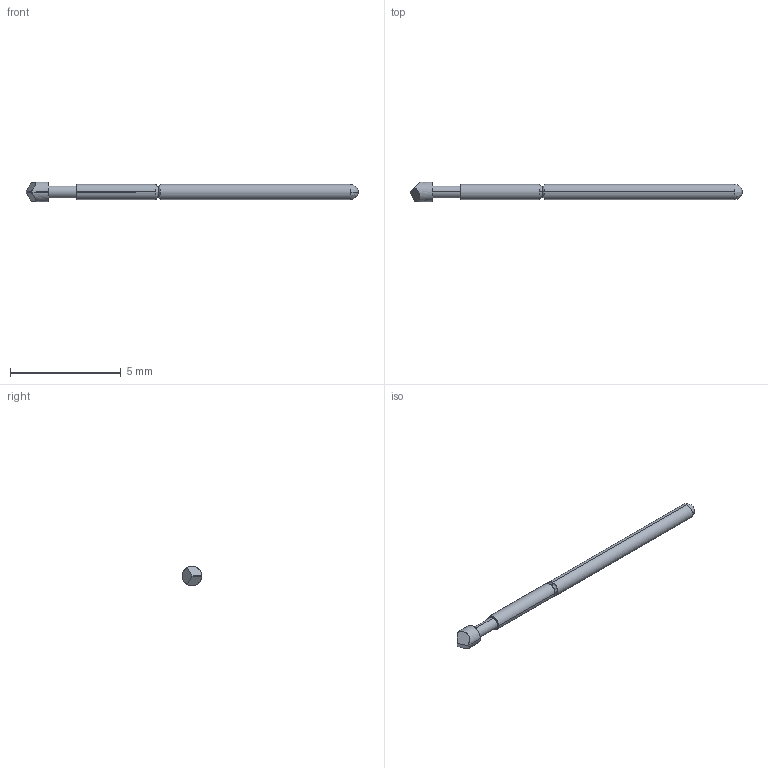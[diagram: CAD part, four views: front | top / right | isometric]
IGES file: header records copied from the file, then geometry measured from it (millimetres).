
Start section: SolidWorks IGES file using analytic representation for surfaces
Global section: file name: F:\OneDrive\Desktop\Coda\24.8\PA1 series, two locations RTP\Completed\SPA1TS.IGS; native system: SolidWorks 2021; preprocessor: SolidWorks 2021; author: Georg; date: 210825.113455; units: inch
Bounding box: 14.99 x 0.89 x 0.89 mm (x, y, z)
Surface area: 32.9 mm2 (no closed solid volume)
Topology: 0 solids, 0 shells, 20 faces, 185 edges, 184 vertices
Faces by surface type: bspline 12, revolution 8
